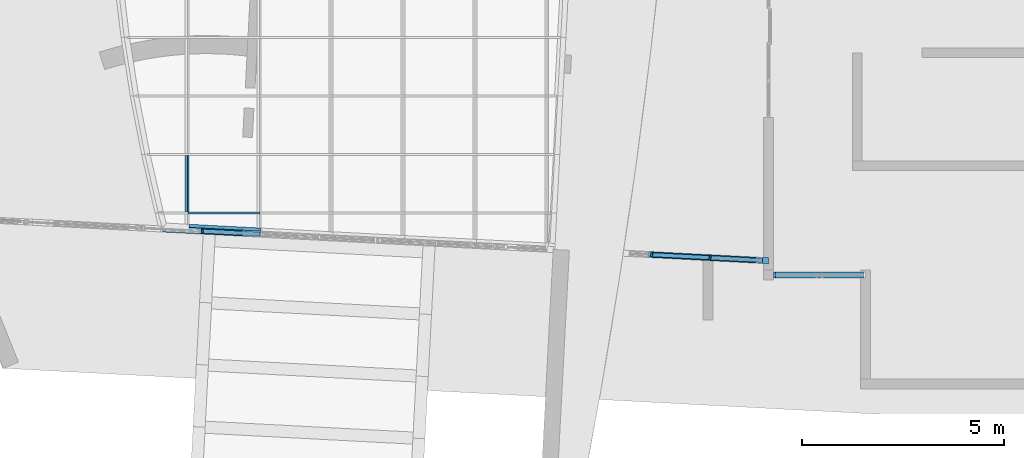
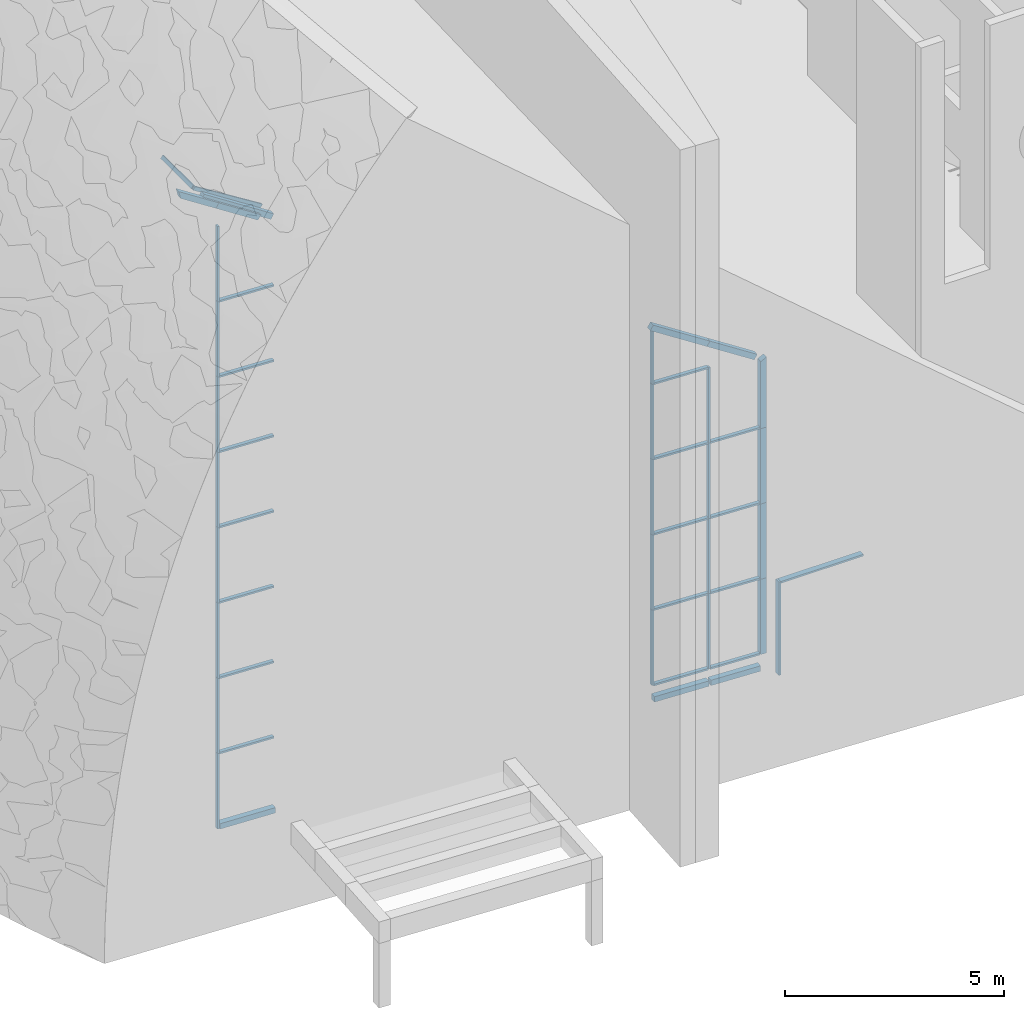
# One storey, part 5 of 82: 49 members, 3 elements without a shape of their own.
"""IFC2X3 building model written with IfcOpenShell, lengths in millimetres."""

from ifc_helpers import new_model, entity, si_unit, converted_unit, derived_unit, direction, frame, frame_2d, origin, origin_2d_with_axis, place, context, subcontext, project, spatial, rectangle, extrude, clip, halfspace, source, transform, mapped, material, type_object, type_shapes, element, aggregate, save


model = new_model("IFC2X3")

# Units and contexts
model_context = context("Model", 3, precision=0.01, world=origin(), true_north=direction((6.12303176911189e-17, 1.0)))
body_context = subcontext(model_context, "Body", "Model", "MODEL_VIEW")
ifc_project = project(units=[si_unit("LENGTHUNIT", "METRE", prefix="MILLI"), si_unit("AREAUNIT", "SQUARE_METRE"), si_unit("VOLUMEUNIT", "CUBIC_METRE"), converted_unit("PLANEANGLEUNIT", "DEGREE", entity("IfcRatioMeasure", 0.0174532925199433), si_unit("PLANEANGLEUNIT", "RADIAN"), dimensions=[0, 0, 0, 0, 0, 0, 0]), si_unit("MASSUNIT", "GRAM", prefix="KILO"), derived_unit("MASSDENSITYUNIT", [(si_unit("MASSUNIT", "GRAM", prefix="KILO"), 1), (si_unit("LENGTHUNIT", "METRE"), -3)]), si_unit("TIMEUNIT", "SECOND"), si_unit("FREQUENCYUNIT", "HERTZ"), si_unit("THERMODYNAMICTEMPERATUREUNIT", "DEGREE_CELSIUS"), derived_unit("THERMALTRANSMITTANCEUNIT", [(si_unit("MASSUNIT", "GRAM", prefix="KILO"), 1), (si_unit("THERMODYNAMICTEMPERATUREUNIT", "KELVIN"), -1), (si_unit("TIMEUNIT", "SECOND"), -3)]), derived_unit("VOLUMETRICFLOWRATEUNIT", [(si_unit("LENGTHUNIT", "METRE"), 3), (si_unit("TIMEUNIT", "SECOND"), -1)]), si_unit("ELECTRICCURRENTUNIT", "AMPERE"), si_unit("ELECTRICVOLTAGEUNIT", "VOLT"), si_unit("POWERUNIT", "WATT"), si_unit("FORCEUNIT", "NEWTON", prefix="KILO"), si_unit("ILLUMINANCEUNIT", "LUX"), si_unit("LUMINOUSFLUXUNIT", "LUMEN"), si_unit("LUMINOUSINTENSITYUNIT", "CANDELA"), derived_unit("USERDEFINED", [(si_unit("MASSUNIT", "GRAM", prefix="KILO"), -1), (si_unit("LENGTHUNIT", "METRE"), -2), (si_unit("TIMEUNIT", "SECOND"), 3), (si_unit("LUMINOUSFLUXUNIT", "LUMEN"), 1)]), derived_unit("LINEARVELOCITYUNIT", [(si_unit("LENGTHUNIT", "METRE"), 1), (si_unit("TIMEUNIT", "SECOND"), -1)]), si_unit("PRESSUREUNIT", "PASCAL"), derived_unit("USERDEFINED", [(si_unit("LENGTHUNIT", "METRE"), -2), (si_unit("MASSUNIT", "GRAM", prefix="KILO"), 1), (si_unit("TIMEUNIT", "SECOND"), -2)])], contexts=[model_context])

# Site, building, storey
site_placement = place(None, origin())
site = spatial("IfcSite", under=ifc_project, at=site_placement, Name="表面", CompositionType="ELEMENT")
building_placement = place(site_placement, origin())
building = spatial("IfcBuilding", under=site, at=building_placement, CompositionType="ELEMENT")
storey_placement = place(building_placement, origin())
storey = spatial("IfcBuildingStorey", under=building, at=storey_placement, Name="1F", CompositionType="ELEMENT", Elevation=0.0)

# Curtain wall, members
curtain_wall_type_1 = type_object("IfcCurtainWallType", Name="幕墙系统:1450 x 2100mm", PredefinedType="NOTDEFINED")
curtain_wall_1_placement = place(storey_placement, origin())
curtain_wall_1 = element("IfcCurtainWall", 1, at=curtain_wall_1_placement, inside=storey, type_object=curtain_wall_type_1, Name="幕墙系统:1450 x 2100mm", ObjectType="幕墙系统:1450 x 2100mm")
ifc_material_1 = material(Name="金属 - 铝")
member_type_1 = type_object("IfcMemberType", Name="50 x 100mm", PredefinedType="MEMBER")
shared_shape_1 = source(origin(), body_context, "Body", "SweptSolid", [
    extrude(rectangle(XDim=100.0, YDim=50.0, at=origin_2d_with_axis()), frame((0.0, 0.0, -1400.0), z_axis=(0.0, 0.0, 1.0), x_axis=(0.0, -1.0, 0.0)), (0.0, 0.0, 1.0), 1400.0),
])
type_shapes(member_type_1, [shared_shape_1])
member_1_placement = place(storey_placement, frame((-15903.2284764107, -28989.6728911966, 460.207110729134), z_axis=(0.998629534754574, -0.0523359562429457, 0.0), x_axis=(0.0, 0.0, 1.0)))
member_1 = element("IfcMember", 2, at=member_1_placement, type_object=member_type_1, material=ifc_material_1, Name="矩形竖梃:50 x 100mm", ObjectType="50 x 100mm", context=body_context, shape_type="MappedRepresentation", body=[
    mapped(shared_shape_1, transform((0.0, 0.0, 0.0), scale=1.0)),
])
member_2_placement = place(storey_placement, frame((-15903.2284764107, -28989.6728911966, 2560.20711072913), z_axis=(0.998629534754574, -0.0523359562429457, 0.0), x_axis=(0.0, 0.0, 1.0)))
member_2 = element("IfcMember", 3, at=member_2_placement, type_object=member_type_1, material=ifc_material_1, Name="矩形竖梃:50 x 100mm", ObjectType="50 x 100mm", context=body_context, shape_type="MappedRepresentation", body=[
    mapped(shared_shape_1, transform((0.0, 0.0, 0.0), scale=1.0)),
])
placement_1 = place(building_placement, frame((0.0, 0.0, 3000.0)))
member_3_placement = place(placement_1, frame((-15903.2284764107, -28989.6728911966, 1660.20711072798), z_axis=(0.998629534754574, -0.0523359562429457, 0.0), x_axis=(0.0, 0.0, 1.0)))
member_3 = element("IfcMember", 4, at=member_3_placement, type_object=member_type_1, material=ifc_material_1, Name="矩形竖梃:50 x 100mm", ObjectType="50 x 100mm", context=body_context, shape_type="MappedRepresentation", body=[
    mapped(shared_shape_1, transform((0.0, 0.0, 0.0), scale=1.0)),
])
placement_2 = place(building_placement, frame((0.0, 0.0, 6000.0)))
member_4_placement = place(placement_2, frame((-15903.2284764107, -28989.6728911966, 760.20711072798), z_axis=(0.998629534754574, -0.0523359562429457, 0.0), x_axis=(0.0, 0.0, 1.0)))
member_4 = element("IfcMember", 5, at=member_4_placement, type_object=member_type_1, material=ifc_material_1, Name="矩形竖梃:50 x 100mm", ObjectType="50 x 100mm", context=body_context, shape_type="MappedRepresentation", body=[
    mapped(shared_shape_1, transform((0.0, 0.0, 0.0), scale=1.0)),
])
member_5_placement = place(placement_2, frame((-15903.2284764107, -28989.6728911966, 2860.20711072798), z_axis=(0.998629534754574, -0.0523359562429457, 0.0), x_axis=(0.0, 0.0, 1.0)))
member_5 = element("IfcMember", 6, at=member_5_placement, type_object=member_type_1, material=ifc_material_1, Name="矩形竖梃:50 x 100mm", ObjectType="50 x 100mm", context=body_context, shape_type="MappedRepresentation", body=[
    mapped(shared_shape_1, transform((0.0, 0.0, 0.0), scale=1.0)),
])

curtain_wall_2_placement = place(storey_placement, origin())
curtain_wall_2 = element("IfcCurtainWall", 7, at=curtain_wall_2_placement, inside=storey, type_object=curtain_wall_type_1, Name="幕墙系统:1450 x 2100mm", ObjectType="幕墙系统:1450 x 2100mm")
placement_3 = place(building_placement, frame((0.0, 0.0, 9000.0)))
member_6_placement = place(placement_3, frame((-28823.6046226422, -26463.9031535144, 8707.18407146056), z_axis=(0.0, 1.0, 0.0), x_axis=(-0.848048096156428, 0.0, 0.529919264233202)))
member_6 = element("IfcMember", 8, at=member_6_placement, type_object=member_type_1, material=ifc_material_1, Name="矩形竖梃:50 x 100mm", ObjectType="50 x 100mm", context=body_context, shape_type="MappedRepresentation", body=[
    mapped(shared_shape_1, transform((0.0, 0.0, 0.0), scale=1.0)),
])
member_7_placement = place(storey_placement, frame((-27025.6431199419, -28406.771839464, 2100.0), z_axis=(0.998629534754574, -0.0523359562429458, 0.0), x_axis=(0.0, 0.0, 1.0)))
member_7 = element("IfcMember", 9, at=member_7_placement, type_object=member_type_1, material=ifc_material_1, Name="矩形竖梃:50 x 100mm", ObjectType="50 x 100mm", context=body_context, shape_type="MappedRepresentation", body=[
    mapped(shared_shape_1, transform((0.0, 0.0, 0.0), scale=1.0)),
])
member_8_placement = place(placement_1, frame((-27025.6431199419, -28406.771839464, 1200.0), z_axis=(0.998629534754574, -0.0523359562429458, 0.0), x_axis=(0.0, 0.0, 1.0)))
member_8 = element("IfcMember", 10, at=member_8_placement, type_object=member_type_1, material=ifc_material_1, Name="矩形竖梃:50 x 100mm", ObjectType="50 x 100mm", context=body_context, shape_type="MappedRepresentation", body=[
    mapped(shared_shape_1, transform((0.0, 0.0, 0.0), scale=1.0)),
])
member_9_placement = place(placement_2, frame((-27025.6431199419, -28406.771839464, 300.0), z_axis=(0.998629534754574, -0.0523359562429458, 0.0), x_axis=(0.0, 0.0, 1.0)))
member_9 = element("IfcMember", 11, at=member_9_placement, type_object=member_type_1, material=ifc_material_1, Name="矩形竖梃:50 x 100mm", ObjectType="50 x 100mm", context=body_context, shape_type="MappedRepresentation", body=[
    mapped(shared_shape_1, transform((0.0, 0.0, 0.0), scale=1.0)),
])
member_10_placement = place(placement_2, frame((-27025.6431199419, -28406.771839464, 2400.0), z_axis=(0.998629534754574, -0.0523359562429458, 0.0), x_axis=(0.0, 0.0, 1.0)))
member_10 = element("IfcMember", 12, at=member_10_placement, type_object=member_type_1, material=ifc_material_1, Name="矩形竖梃:50 x 100mm", ObjectType="50 x 100mm", context=body_context, shape_type="MappedRepresentation", body=[
    mapped(shared_shape_1, transform((0.0, 0.0, 0.0), scale=1.0)),
])
member_11_placement = place(placement_3, frame((-27025.6431199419, -28406.771839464, 1500.0), z_axis=(0.998629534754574, -0.0523359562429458, 0.0), x_axis=(0.0, 0.0, 1.0)))
member_11 = element("IfcMember", 13, at=member_11_placement, type_object=member_type_1, material=ifc_material_1, Name="矩形竖梃:50 x 100mm", ObjectType="50 x 100mm", context=body_context, shape_type="MappedRepresentation", body=[
    mapped(shared_shape_1, transform((0.0, 0.0, 0.0), scale=1.0)),
])
member_12_placement = place(placement_3, frame((-27025.6431199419, -28406.771839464, 3600.0), z_axis=(0.998629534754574, -0.0523359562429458, 0.0), x_axis=(0.0, 0.0, 1.0)))
member_12 = element("IfcMember", 14, at=member_12_placement, type_object=member_type_1, material=ifc_material_1, Name="矩形竖梃:50 x 100mm", ObjectType="50 x 100mm", context=body_context, shape_type="MappedRepresentation", body=[
    mapped(shared_shape_1, transform((0.0, 0.0, 0.0), scale=1.0)),
])
member_13_placement = place(placement_3, frame((-27025.6431199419, -28406.771839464, 5700.0), z_axis=(0.998629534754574, -0.0523359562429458, 0.0), x_axis=(0.0, 0.0, 1.0)))
member_13 = element("IfcMember", 15, at=member_13_placement, type_object=member_type_1, material=ifc_material_1, Name="矩形竖梃:50 x 100mm", ObjectType="50 x 100mm", context=body_context, shape_type="MappedRepresentation", body=[
    mapped(shared_shape_1, transform((0.0, 0.0, 0.0), scale=1.0)),
])
member_type_2 = type_object("IfcMemberType", Name="50 x 100mm", PredefinedType="MEMBER")
shared_shape_2 = source(origin(), body_context, "Body", "SweptSolid", [
    extrude(rectangle(XDim=100.0, YDim=50.0, at=origin_2d_with_axis()), frame((0.0, 0.0, -2100.0), z_axis=(0.0, 0.0, 1.0), x_axis=(0.0, -1.0, 0.0)), (0.0, 0.0, 1.0), 2100.0),
])
type_shapes(member_type_2, [shared_shape_2])
member_14_placement = place(storey_placement, frame((-28448.6902069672, -28332.1931018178, 2100.0), z_axis=(0.0, 0.0, 1.0), x_axis=(-0.998629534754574, 0.0523359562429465, 0.0)))
member_14 = element("IfcMember", 16, at=member_14_placement, type_object=member_type_2, material=ifc_material_1, Name="矩形竖梃:50 x 100mm", ObjectType="50 x 100mm", context=body_context, shape_type="MappedRepresentation", body=[
    mapped(shared_shape_2, transform((0.0, 0.0, 0.0), scale=1.0)),
])

# Member
member_type_3 = type_object("IfcMemberType", Name="50 x 100mm", PredefinedType="MEMBER")
shared_shape_3 = source(origin(), body_context, "Body", "SweptSolid", [
    extrude(rectangle(XDim=100.0, YDim=50.0, at=origin_2d_with_axis()), frame((0.0, 0.0, -2100.0), z_axis=(0.0, 0.0, 1.0), x_axis=(0.0, -1.0, 0.0)), (0.0, 0.0, 1.0), 2100.0),
])
type_shapes(member_type_3, [shared_shape_3])
member_15_placement = place(storey_placement, frame((-15878.2627380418, -28990.9812901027, 2560.20711072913), z_axis=(0.0, 0.0, 1.0), x_axis=(-0.998629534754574, 0.0523359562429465, 0.0)))
member_15 = element("IfcMember", 17, at=member_15_placement, type_object=member_type_3, material=ifc_material_1, Name="矩形竖梃:50 x 100mm", ObjectType="50 x 100mm", context=body_context, shape_type="MappedRepresentation", body=[
    mapped(shared_shape_3, transform((0.0, 0.0, 0.0), scale=1.0)),
])

member_16_placement = place(storey_placement, frame((-15878.2627380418, -28990.9812901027, 4660.20711072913), z_axis=(0.0, 0.0, 1.0), x_axis=(-0.998629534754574, 0.0523359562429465, 0.0)))
member_16 = element("IfcMember", 18, at=member_16_placement, type_object=member_type_3, material=ifc_material_1, Name="矩形竖梃:50 x 100mm", ObjectType="50 x 100mm", context=body_context, shape_type="MappedRepresentation", body=[
    mapped(shared_shape_3, transform((0.0, 0.0, 0.0), scale=1.0)),
])

member_17_placement = place(placement_1, frame((-15878.2627380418, -28990.9812901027, 3760.20711072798), z_axis=(0.0, 0.0, 1.0), x_axis=(-0.998629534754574, 0.0523359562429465, 0.0)))
member_17 = element("IfcMember", 19, at=member_17_placement, type_object=member_type_3, material=ifc_material_1, Name="矩形竖梃:50 x 100mm", ObjectType="50 x 100mm", context=body_context, shape_type="MappedRepresentation", body=[
    mapped(shared_shape_3, transform((0.0, 0.0, 0.0), scale=1.0)),
])

member_18_placement = place(storey_placement, frame((-17326.2755634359, -28915.0941535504, 2560.20711072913), z_axis=(0.0, 0.0, 1.0), x_axis=(-0.998629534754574, 0.0523359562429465, 0.0)))
member_18 = element("IfcMember", 20, at=member_18_placement, type_object=member_type_3, material=ifc_material_1, Name="矩形竖梃:50 x 100mm", ObjectType="50 x 100mm", context=body_context, shape_type="MappedRepresentation", body=[
    mapped(shared_shape_3, transform((0.0, 0.0, 0.0), scale=1.0)),
])

member_19_placement = place(storey_placement, frame((-17326.2755634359, -28915.0941535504, 4660.20711072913), z_axis=(0.0, 0.0, 1.0), x_axis=(-0.998629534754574, 0.0523359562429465, 0.0)))
member_19 = element("IfcMember", 21, at=member_19_placement, type_object=member_type_3, material=ifc_material_1, Name="矩形竖梃:50 x 100mm", ObjectType="50 x 100mm", context=body_context, shape_type="MappedRepresentation", body=[
    mapped(shared_shape_3, transform((0.0, 0.0, 0.0), scale=1.0)),
])

member_20_placement = place(placement_1, frame((-17326.2755634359, -28915.0941535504, 3760.20711072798), z_axis=(0.0, 0.0, 1.0), x_axis=(-0.998629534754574, 0.0523359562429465, 0.0)))
member_20 = element("IfcMember", 22, at=member_20_placement, type_object=member_type_3, material=ifc_material_1, Name="矩形竖梃:50 x 100mm", ObjectType="50 x 100mm", context=body_context, shape_type="MappedRepresentation", body=[
    mapped(shared_shape_3, transform((0.0, 0.0, 0.0), scale=1.0)),
])

member_21_placement = place(placement_2, frame((-17326.2755634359, -28915.0941535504, 2860.20711072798), z_axis=(0.0, 0.0, 1.0), x_axis=(-0.998629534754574, 0.0523359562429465, 0.0)))
member_21 = element("IfcMember", 23, at=member_21_placement, type_object=member_type_3, material=ifc_material_1, Name="矩形竖梃:50 x 100mm", ObjectType="50 x 100mm", context=body_context, shape_type="MappedRepresentation", body=[
    mapped(shared_shape_3, transform((0.0, 0.0, 0.0), scale=1.0)),
])

member_22_placement = place(placement_2, frame((-15878.2627380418, -28990.9812901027, 2860.20711072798), z_axis=(0.0, 0.0, 1.0), x_axis=(-0.998629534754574, 0.0523359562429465, 0.0)))
member_22 = element("IfcMember", 24, at=member_22_placement, type_object=member_type_3, material=ifc_material_1, Name="矩形竖梃:50 x 100mm", ObjectType="50 x 100mm", context=body_context, shape_type="MappedRepresentation", body=[
    mapped(shared_shape_3, transform((0.0, 0.0, 0.0), scale=1.0)),
])

member_23_placement = place(placement_3, frame((-28823.6046226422, -27888.9031535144, 8707.18407146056), z_axis=(-0.848048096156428, 0.0, 0.529919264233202), x_axis=(0.0, -1.0, 0.0)))
member_23 = element("IfcMember", 25, at=member_23_placement, type_object=member_type_3, material=ifc_material_1, Name="矩形竖梃:50 x 100mm", ObjectType="50 x 100mm", context=body_context, shape_type="MappedRepresentation", body=[
    mapped(shared_shape_3, transform((0.0, 0.0, 0.0), scale=1.0)),
])

member_24_placement = place(storey_placement, frame((-28448.6902069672, -28332.1931018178, 4200.0), z_axis=(0.0, 0.0, 1.0), x_axis=(-0.998629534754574, 0.0523359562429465, 0.0)))
member_24 = element("IfcMember", 26, at=member_24_placement, type_object=member_type_3, material=ifc_material_1, Name="矩形竖梃:50 x 100mm", ObjectType="50 x 100mm", context=body_context, shape_type="MappedRepresentation", body=[
    mapped(shared_shape_3, transform((0.0, 0.0, 0.0), scale=1.0)),
])

member_25_placement = place(placement_1, frame((-28448.6902069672, -28332.1931018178, 3300.0), z_axis=(0.0, 0.0, 1.0), x_axis=(-0.998629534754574, 0.0523359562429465, 0.0)))
member_25 = element("IfcMember", 27, at=member_25_placement, type_object=member_type_3, material=ifc_material_1, Name="矩形竖梃:50 x 100mm", ObjectType="50 x 100mm", context=body_context, shape_type="MappedRepresentation", body=[
    mapped(shared_shape_3, transform((0.0, 0.0, 0.0), scale=1.0)),
])

member_26_placement = place(placement_2, frame((-28448.6902069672, -28332.1931018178, 2400.0), z_axis=(0.0, 0.0, 1.0), x_axis=(-0.998629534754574, 0.0523359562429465, 0.0)))
member_26 = element("IfcMember", 28, at=member_26_placement, type_object=member_type_3, material=ifc_material_1, Name="矩形竖梃:50 x 100mm", ObjectType="50 x 100mm", context=body_context, shape_type="MappedRepresentation", body=[
    mapped(shared_shape_3, transform((0.0, 0.0, 0.0), scale=1.0)),
])

member_27_placement = place(placement_2, frame((-28448.6902069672, -28332.1931018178, 4500.0), z_axis=(0.0, 0.0, 1.0), x_axis=(-0.998629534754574, 0.0523359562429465, 0.0)))
member_27 = element("IfcMember", 29, at=member_27_placement, type_object=member_type_3, material=ifc_material_1, Name="矩形竖梃:50 x 100mm", ObjectType="50 x 100mm", context=body_context, shape_type="MappedRepresentation", body=[
    mapped(shared_shape_3, transform((0.0, 0.0, 0.0), scale=1.0)),
])

member_28_placement = place(placement_3, frame((-28448.6902069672, -28332.1931018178, 3600.0), z_axis=(0.0, 0.0, 1.0), x_axis=(-0.998629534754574, 0.0523359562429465, 0.0)))
member_28 = element("IfcMember", 30, at=member_28_placement, type_object=member_type_3, material=ifc_material_1, Name="矩形竖梃:50 x 100mm", ObjectType="50 x 100mm", context=body_context, shape_type="MappedRepresentation", body=[
    mapped(shared_shape_3, transform((0.0, 0.0, 0.0), scale=1.0)),
])

member_29_placement = place(placement_3, frame((-28448.6902069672, -28332.1931018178, 5700.0), z_axis=(0.0, 0.0, 1.0), x_axis=(-0.998629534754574, 0.0523359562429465, 0.0)))
member_29 = element("IfcMember", 31, at=member_29_placement, type_object=member_type_3, material=ifc_material_1, Name="矩形竖梃:50 x 100mm", ObjectType="50 x 100mm", context=body_context, shape_type="MappedRepresentation", body=[
    mapped(shared_shape_3, transform((0.0, 0.0, 0.0), scale=1.0)),
])

member_30_placement = place(placement_3, frame((-28448.6902069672, -28332.1931018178, 7800.0), z_axis=(0.0, 0.0, 1.0), x_axis=(-0.998629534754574, 0.0523359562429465, 0.0)))
member_30 = element("IfcMember", 32, at=member_30_placement, type_object=member_type_3, material=ifc_material_1, Name="矩形竖梃:50 x 100mm", ObjectType="50 x 100mm", context=body_context, shape_type="MappedRepresentation", body=[
    mapped(shared_shape_3, transform((0.0, 0.0, 0.0), scale=1.0)),
])

ifc_material_2 = material(Name="木质 - 木材")
member_type_4 = type_object("IfcMemberType", Name="200 x 150mm", PredefinedType="MEMBER")
shared_shape_4 = source(origin(), body_context, "Body", "SweptSolid", [
    extrude(rectangle(XDim=150.0, YDim=150.0, at=origin_2d_with_axis()), frame((-75.0, 0.0, -1425.0), z_axis=(0.0, 0.0, 1.0), x_axis=(0.0, -1.0, 0.0)), (0.0, 0.0, 1.0), 1425.0),
])
type_shapes(member_type_4, [shared_shape_4])
member_31_placement = place(storey_placement, frame((-28423.7244685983, -28333.5015007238, 0.0), z_axis=(-0.998629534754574, 0.0523359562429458, 0.0), x_axis=(0.0, 0.0, -1.0)))
member_31 = element("IfcMember", 33, at=member_31_placement, type_object=member_type_4, material=ifc_material_2, Name="矩形竖梃:200 x 150mm", ObjectType="200 x 150mm", context=body_context, shape_type="MappedRepresentation", body=[
    mapped(shared_shape_4, transform((0.0, 0.0, 0.0), scale=1.0)),
])

member_type_5 = type_object("IfcMemberType", Name="200 x 150mm", PredefinedType="MEMBER")
shared_shape_5 = source(origin(), body_context, "Body", "SweptSolid", [
    extrude(rectangle(XDim=150.0, YDim=150.0, at=origin_2d_with_axis()), frame((-75.0, 0.0, -1400.0), z_axis=(0.0, 0.0, 1.0), x_axis=(0.0, -1.0, 0.0)), (0.0, 0.0, 1.0), 1400.0),
])
type_shapes(member_type_5, [shared_shape_5])
member_32_placement = place(storey_placement, frame((-17301.3098250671, -28916.4025524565, 0.0), z_axis=(-0.998629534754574, 0.0523359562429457, 0.0), x_axis=(0.0, 0.0, -1.0)))
member_32 = element("IfcMember", 34, at=member_32_placement, type_object=member_type_5, material=ifc_material_2, Name="矩形竖梃:200 x 150mm", ObjectType="200 x 150mm", context=body_context, shape_type="MappedRepresentation", body=[
    mapped(shared_shape_5, transform((0.0, 0.0, 0.0), scale=1.0)),
])

member_type_6 = type_object("IfcMemberType", Name="200 x 150mm", PredefinedType="MEMBER")
shared_shape_6 = source(origin(), body_context, "Body", "SweptSolid", [
    extrude(rectangle(XDim=150.0, YDim=150.0, at=origin_2d_with_axis()), frame((-75.0, 0.0, -2100.0), z_axis=(0.0, 0.0, 1.0), x_axis=(0.0, -1.0, 0.0)), (0.0, 0.0, 1.0), 2100.0),
])
type_shapes(member_type_6, [shared_shape_6])
member_33_placement = place(storey_placement, frame((-14430.2499126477, -29066.868426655, 460.207110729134), z_axis=(0.0, 0.0, -1.0), x_axis=(0.998629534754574, -0.0523359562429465, 0.0)))
member_33 = element("IfcMember", 35, at=member_33_placement, type_object=member_type_6, material=ifc_material_2, Name="矩形竖梃:200 x 150mm", ObjectType="200 x 150mm", context=body_context, shape_type="MappedRepresentation", body=[
    mapped(shared_shape_6, transform((0.0, 0.0, 0.0), scale=1.0)),
])

member_34_placement = place(storey_placement, frame((-14430.2499126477, -29066.868426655, 2560.20711072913), z_axis=(0.0, 0.0, -1.0), x_axis=(0.998629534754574, -0.0523359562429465, 0.0)))
member_34 = element("IfcMember", 36, at=member_34_placement, type_object=member_type_6, material=ifc_material_2, Name="矩形竖梃:200 x 150mm", ObjectType="200 x 150mm", context=body_context, shape_type="MappedRepresentation", body=[
    mapped(shared_shape_6, transform((0.0, 0.0, 0.0), scale=1.0)),
])

member_35_placement = place(placement_1, frame((-14430.2499126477, -29066.868426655, 1660.20711072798), z_axis=(0.0, 0.0, -1.0), x_axis=(0.998629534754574, -0.0523359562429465, 0.0)))
member_35 = element("IfcMember", 37, at=member_35_placement, type_object=member_type_6, material=ifc_material_2, Name="矩形竖梃:200 x 150mm", ObjectType="200 x 150mm", context=body_context, shape_type="MappedRepresentation", body=[
    mapped(shared_shape_6, transform((0.0, 0.0, 0.0), scale=1.0)),
])

member_type_7 = type_object("IfcMemberType", Name="200 x 150mm", PredefinedType="MEMBER")
shared_shape_7 = source(origin(), body_context, "Body", "SweptSolid", [
    extrude(rectangle(XDim=150.0, YDim=150.0, at=origin_2d_with_axis()), frame((-75.0, 0.0, -1275.0), z_axis=(0.0, 0.0, 1.0), x_axis=(0.0, -1.0, 0.0)), (0.0, 0.0, 1.0), 1275.0),
])
type_shapes(member_type_7, [shared_shape_7])
member_36_placement = place(storey_placement, frame((-15853.2969996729, -28992.2896890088, 0.0), z_axis=(-0.998629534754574, 0.0523359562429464, 0.0), x_axis=(0.0, 0.0, -1.0)))
member_36 = element("IfcMember", 38, at=member_36_placement, type_object=member_type_7, material=ifc_material_2, Name="矩形竖梃:200 x 150mm", ObjectType="200 x 150mm", context=body_context, shape_type="MappedRepresentation", body=[
    mapped(shared_shape_7, transform((0.0, 0.0, 0.0), scale=1.0)),
])

member_type_8 = type_object("IfcMemberType", Name="200 x 150mm", PredefinedType="MEMBER")
shared_shape_8 = source(origin(), body_context, "Body", "SweptSolid", [
    extrude(rectangle(XDim=150.0, YDim=150.0, at=frame_2d((2.1316282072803e-14, 0.0), x_axis=(1.0, 0.0))), frame((-75.0, 0.0, -1709.1509955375), z_axis=(0.0, 0.0, 1.0), x_axis=(0.0, -1.0, 0.0)), (0.0, 0.0, 1.0), 1709.1509955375),
])
type_shapes(member_type_8, [shared_shape_8])
member_37_placement = place(placement_3, frame((-15878.2627380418, -28990.9812901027, 618.036677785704), z_axis=(0.847211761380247, -0.0444004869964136, -0.529396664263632), x_axis=(0.528671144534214, -0.0277064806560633, 0.848374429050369)))
member_37 = element("IfcMember", 39, at=member_37_placement, type_object=member_type_8, material=ifc_material_2, Name="矩形竖梃:200 x 150mm", ObjectType="200 x 150mm", context=body_context, shape_type="MappedRepresentation", body=[
    mapped(shared_shape_8, transform((0.0, 0.0, 0.0), scale=1.0)),
])

member_type_9 = type_object("IfcMemberType", Name="200 x 150mm", PredefinedType="MEMBER")
shared_shape_9 = source(origin(), body_context, "Body", "Clipping", [
    clip(extrude(rectangle(XDim=150.0, YDim=150.0, at=origin_2d_with_axis()), frame((-75.0, 0.0, -1953.01073129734), z_axis=(0.0, 0.0, 1.0), x_axis=(0.0, -1.0, 0.0)), (0.0, 0.0, 1.0), 1953.01073129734), halfspace(frame((0.0, -304.8, -1953.01073129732), z_axis=(-0.485079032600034, 0.0, -0.874470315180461), x_axis=(-0.874470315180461, 0.0, 0.485079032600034)), False)),
])
type_shapes(member_type_9, [shared_shape_9])
member_38_placement = place(placement_2, frame((-14430.2499126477, -29066.868426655, 760.20711072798), z_axis=(0.0, 0.0, -1.0), x_axis=(0.998629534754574, -0.0523359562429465, 0.0)))
member_38 = element("IfcMember", 40, at=member_38_placement, type_object=member_type_9, material=ifc_material_2, Name="矩形竖梃:200 x 150mm", ObjectType="200 x 150mm", context=body_context, shape_type="MappedRepresentation", body=[
    mapped(shared_shape_9, transform((0.0, 0.0, 0.0), scale=1.0)),
])

member_type_10 = type_object("IfcMemberType", Name="50 x 100mm", PredefinedType="MEMBER")
shared_shape_10 = source(origin(), body_context, "Body", "SweptSolid", [
    extrude(rectangle(XDim=100.0, YDim=50.0, at=frame_2d((-1.4210854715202e-14, 0.0), x_axis=(1.0, 0.0))), frame((0.0, 0.0, -1275.0), z_axis=(0.0, 0.0, 1.0), x_axis=(0.0, -1.0, 0.0)), (0.0, 0.0, 1.0), 1275.0),
])
type_shapes(member_type_10, [shared_shape_10])
member_39_placement = place(storey_placement, frame((-14580.0443428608, -29059.0180332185, 460.207110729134), z_axis=(0.998629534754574, -0.0523359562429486, 0.0), x_axis=(0.0, 0.0, 1.0)))
member_39 = element("IfcMember", 41, at=member_39_placement, type_object=member_type_10, material=ifc_material_1, Name="矩形竖梃:50 x 100mm", ObjectType="50 x 100mm", context=body_context, shape_type="MappedRepresentation", body=[
    mapped(shared_shape_10, transform((0.0, 0.0, 0.0), scale=1.0)),
])

member_40_placement = place(storey_placement, frame((-14580.0443428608, -29059.0180332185, 2560.20711072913), z_axis=(0.998629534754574, -0.0523359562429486, 0.0), x_axis=(0.0, 0.0, 1.0)))
member_40 = element("IfcMember", 42, at=member_40_placement, type_object=member_type_10, material=ifc_material_1, Name="矩形竖梃:50 x 100mm", ObjectType="50 x 100mm", context=body_context, shape_type="MappedRepresentation", body=[
    mapped(shared_shape_10, transform((0.0, 0.0, 0.0), scale=1.0)),
])

member_41_placement = place(placement_1, frame((-14580.0443428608, -29059.0180332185, 1660.20711072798), z_axis=(0.998629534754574, -0.0523359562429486, 0.0), x_axis=(0.0, 0.0, 1.0)))
member_41 = element("IfcMember", 43, at=member_41_placement, type_object=member_type_10, material=ifc_material_1, Name="矩形竖梃:50 x 100mm", ObjectType="50 x 100mm", context=body_context, shape_type="MappedRepresentation", body=[
    mapped(shared_shape_10, transform((0.0, 0.0, 0.0), scale=1.0)),
])

member_42_placement = place(placement_2, frame((-14580.0443428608, -29059.0180332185, 760.20711072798), z_axis=(0.998629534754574, -0.0523359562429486, 0.0), x_axis=(0.0, 0.0, 1.0)))
member_42 = element("IfcMember", 44, at=member_42_placement, type_object=member_type_10, material=ifc_material_1, Name="矩形竖梃:50 x 100mm", ObjectType="50 x 100mm", context=body_context, shape_type="MappedRepresentation", body=[
    mapped(shared_shape_10, transform((0.0, 0.0, 0.0), scale=1.0)),
])

member_type_11 = type_object("IfcMemberType", Name="200 x 150mm", PredefinedType="MEMBER")
shared_shape_11 = source(origin(), body_context, "Body", "SweptSolid", [
    extrude(rectangle(XDim=150.0, YDim=150.0, at=frame_2d((2.8421709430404e-14, 0.0), x_axis=(1.0, 0.0))), frame((-75.0, 0.0, -1431.49667954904), z_axis=(0.0, 0.0, 1.0), x_axis=(0.0, -1.0, 0.0)), (0.0, 0.0, 1.0), 1431.49667954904),
])
type_shapes(member_type_11, [shared_shape_11])
member_43_placement = place(placement_2, frame((-14665.4819147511, -29054.5404398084, 2860.20711072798), z_axis=(0.847211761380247, -0.0444004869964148, -0.529396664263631), x_axis=(0.528671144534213, -0.0277064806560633, 0.848374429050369)))
member_43 = element("IfcMember", 45, at=member_43_placement, type_object=member_type_11, material=ifc_material_2, Name="矩形竖梃:200 x 150mm", ObjectType="200 x 150mm", context=body_context, shape_type="MappedRepresentation", body=[
    mapped(shared_shape_11, transform((0.0, 0.0, 0.0), scale=1.0)),
])

member_type_12 = type_object("IfcMemberType", Name="50 x 100mm", PredefinedType="MEMBER")
shared_shape_12 = source(origin(), body_context, "Body", "Clipping", [
    clip(extrude(rectangle(XDim=100.0, YDim=50.0, at=origin_2d_with_axis()), frame((0.0, 0.0, -1662.64840281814), z_axis=(0.0, 0.0, 1.0), x_axis=(0.0, -1.0, 0.0)), (0.0, 0.0, 1.0), 1501.44000389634), halfspace(frame((-1370.59050036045, 75.0, -1032.07500011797), z_axis=(-0.529396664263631, 0.0, 0.848374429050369), x_axis=(0.848374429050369, 0.0, 0.529396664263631)), False)),
])
type_shapes(member_type_12, [shared_shape_12])
member_44_placement = place(placement_2, frame((-17326.2755634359, -28915.0941535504, 4522.85551354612), z_axis=(0.0, 0.0, 1.0), x_axis=(-0.998629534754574, 0.0523359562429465, 0.0)))
member_44 = element("IfcMember", 46, at=member_44_placement, type_object=member_type_12, material=ifc_material_1, Name="矩形竖梃:50 x 100mm", ObjectType="50 x 100mm", context=body_context, shape_type="MappedRepresentation", body=[
    mapped(shared_shape_12, transform((0.0, 0.0, 0.0), scale=1.0)),
])

aggregate(curtain_wall_1, [member_36, member_37, member_33, member_34, member_35, member_38, member_1, member_2, member_3, member_4, member_15, member_16, member_17, member_32, member_18, member_19, member_20, member_39, member_40, member_41, member_42, member_5, member_21, member_43, member_44, member_22])

# Curtain wall, members
curtain_wall_type_2 = type_object("IfcCurtainWallType", Name="幕墙:幕墙 2", PredefinedType="NOTDEFINED")
curtain_wall_3_placement = place(storey_placement, origin())
curtain_wall_3 = element("IfcCurtainWall", 47, at=curtain_wall_3_placement, inside=storey, type_object=curtain_wall_type_2, Name="幕墙:幕墙 2", ObjectType="幕墙:幕墙 2")
member_type_13 = type_object("IfcMemberType", Name="50 x 150mm", PredefinedType="MEMBER")
shared_shape_13 = source(origin(), body_context, "Body", "SweptSolid", [
    extrude(rectangle(XDim=150.0, YDim=50.0, at=origin_2d_with_axis()), frame((-25.0, 0.0, -2180.0), z_axis=(0.0, 0.0, 1.0), x_axis=(0.0, -1.0, 0.0)), (0.0, 0.0, 1.0), 2180.0),
])
type_shapes(member_type_13, [shared_shape_13])
member_45_placement = place(storey_placement, frame((-12080.2499126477, -29416.868426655, 2600.0), z_axis=(1.0, 0.0, 0.0), x_axis=(0.0, 0.0, 1.0)))
member_45 = element("IfcMember", 48, at=member_45_placement, type_object=member_type_13, material=ifc_material_1, Name="矩形竖梃:50 x 150mm", ObjectType="50 x 150mm", context=body_context, shape_type="MappedRepresentation", body=[
    mapped(shared_shape_13, transform((0.0, 0.0, 0.0), scale=1.0)),
])
member_type_14 = type_object("IfcMemberType", Name="50 x 150mm", PredefinedType="MEMBER")
shared_shape_14 = source(origin(), body_context, "Body", "SweptSolid", [
    extrude(rectangle(XDim=150.0, YDim=50.0, at=origin_2d_with_axis()), frame((-25.0, 0.0, -2600.0), z_axis=(0.0, 0.0, 1.0), x_axis=(0.0, -1.0, 0.0)), (0.0, 0.0, 1.0), 2600.0),
])
type_shapes(member_type_14, [shared_shape_14])
member_46_placement = place(storey_placement, frame((-14310.2499126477, -29416.868426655, 2600.0), z_axis=(0.0, 0.0, 1.0), x_axis=(-1.0, 0.0, 0.0)))
member_46 = element("IfcMember", 49, at=member_46_placement, type_object=member_type_14, material=ifc_material_1, Name="矩形竖梃:50 x 150mm", ObjectType="50 x 150mm", context=body_context, shape_type="MappedRepresentation", body=[
    mapped(shared_shape_14, transform((0.0, 0.0, 0.0), scale=1.0)),
])
aggregate(curtain_wall_3, [member_45, member_46])

# Member
member_type_15 = type_object("IfcMemberType", Name="200 x 150mm", PredefinedType="MEMBER")
shared_shape_15 = source(origin(), body_context, "Body", "SweptSolid", [
    extrude(rectangle(XDim=150.0, YDim=150.0, at=origin_2d_with_axis()), frame((-75.0, 0.0, -2102.0730390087), z_axis=(0.0, 0.0, 1.0), x_axis=(0.0, -1.0, 0.0)), (0.0, 0.0, 1.0), 2102.0730390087),
])
type_shapes(member_type_15, [shared_shape_15])
member_47_placement = place(placement_3, frame((-28823.6046226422, -28312.544669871, 8707.18407146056), z_axis=(-0.847211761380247, 0.0444004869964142, 0.529396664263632), x_axis=(-0.0376537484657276, -0.999013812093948, 0.0235286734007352)))
member_47 = element("IfcMember", 50, at=member_47_placement, type_object=member_type_15, material=ifc_material_2, Name="矩形竖梃:200 x 150mm", ObjectType="200 x 150mm", context=body_context, shape_type="MappedRepresentation", body=[
    mapped(shared_shape_15, transform((0.0, 0.0, 0.0), scale=1.0)),
])

member_type_16 = type_object("IfcMemberType", Name="200 x 150mm", PredefinedType="MEMBER")
shared_shape_16 = source(origin(), body_context, "Body", "Clipping", [
    clip(extrude(rectangle(XDim=150.0, YDim=150.0, at=origin_2d_with_axis()), frame((-75.0, 0.0, -1215.04160919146), z_axis=(0.0, 0.0, 1.0), x_axis=(0.0, -1.0, 0.0)), (0.0, 0.0, 1.0), 1215.04160919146), halfspace(frame((0.0, -304.800000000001, -1215.04160919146), z_axis=(-0.710826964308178, 0.0, -0.703366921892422), x_axis=(-0.703366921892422, 0.0, 0.710826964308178)), False)),
])
type_shapes(member_type_16, [shared_shape_16])
member_48_placement = place(placement_3, frame((-28448.6902069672, -28332.1931018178, 8472.91154351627), z_axis=(0.847211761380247, -0.0444004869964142, -0.529396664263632), x_axis=(0.528671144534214, -0.0277064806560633, 0.848374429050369)))
member_48 = element("IfcMember", 51, at=member_48_placement, type_object=member_type_16, material=ifc_material_2, Name="矩形竖梃:200 x 150mm", ObjectType="200 x 150mm", context=body_context, shape_type="MappedRepresentation", body=[
    mapped(shared_shape_16, transform((0.0, 0.0, 0.0), scale=1.0)),
])

member_type_17 = type_object("IfcMemberType", Name="200 x 150mm", PredefinedType="MEMBER")
shared_shape_17 = source(origin(), body_context, "Body", "SweptSolid", [
    extrude(rectangle(XDim=150.0, YDim=150.0, at=frame_2d((2.8421709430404e-14, 0.0), x_axis=(1.0, 0.0))), frame((-75.0, 0.0, -1271.09139316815), z_axis=(0.0, 0.0, 1.0), x_axis=(0.0, -1.0, 0.0)), (0.0, 0.0, 1.0), 1271.09139316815),
])
type_shapes(member_type_17, [shared_shape_17])
member_49_placement = place(placement_3, frame((-27371.8066288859, -28388.6301786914, 7800.0), z_axis=(0.847211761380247, -0.044400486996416, -0.529396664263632), x_axis=(0.528671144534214, -0.0277064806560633, 0.848374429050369)))
member_49 = element("IfcMember", 52, at=member_49_placement, type_object=member_type_17, material=ifc_material_2, Name="矩形竖梃:200 x 150mm", ObjectType="200 x 150mm", context=body_context, shape_type="MappedRepresentation", body=[
    mapped(shared_shape_17, transform((0.0, 0.0, 0.0), scale=1.0)),
])

aggregate(curtain_wall_2, [member_47, member_6, member_23, member_31, member_48, member_49, member_7, member_8, member_9, member_10, member_11, member_12, member_13, member_14, member_24, member_25, member_26, member_27, member_28, member_29, member_30])

save(model, "model.ifc")
